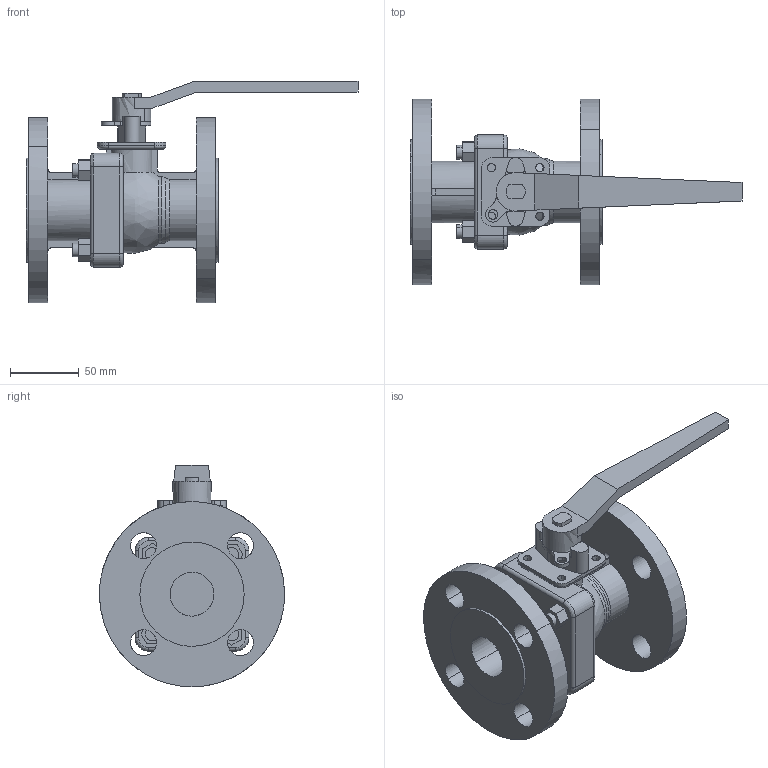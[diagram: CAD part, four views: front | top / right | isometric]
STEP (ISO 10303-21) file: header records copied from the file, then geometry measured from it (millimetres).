
FILE_DESCRIPTION((''),'2;1');
FILE_NAME('','2022-03-23T15:31:53',(''),(''),'','CADfix','');
FILE_SCHEMA(('AUTOMOTIVE_DESIGN { 1 0 10303 214 1 1 1 1 }'));
Length unit declared in the file: millimetre
Products named in the file (2): BLV-2SFJ 32A; BLV-2SF JIS 10K 32A_38
Assembly tree (1 placements, depth 2):
  BLV-2SF JIS 10K 32A_38
    BLV-2SFJ 32A
Bounding box: 242 x 135 x 161.5 mm (x, y, z)
Volume: 706222.4 mm3; surface area: 131905.3 mm2
Topology: 1 solids, 1 shells, 217 faces, 772 edges, 572 vertices
Faces by surface type: bspline 217
Entity records: 11201 total; most frequent: CARTESIAN_POINT 6105, ORIENTED_EDGE 1544, EDGE_CURVE 772, STYLED_ITEM 626, VERTEX_POINT 572, B_SPLINE_CURVE_WITH_KNOTS 361, QUASI_UNIFORM_CURVE 320, EDGE_LOOP 262
